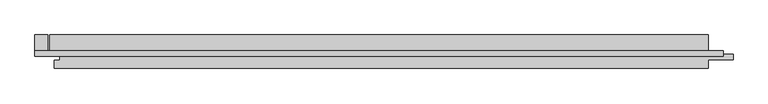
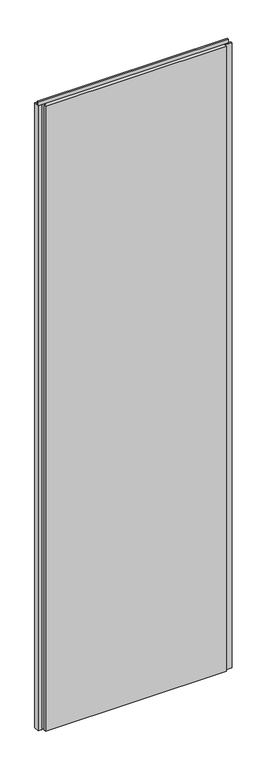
"""IFC4 building model written with IfcOpenShell, lengths in millimetres: plate geometry, Trimo_Qbiss Screen_Normal Panel-VERTICAL : HR - B."""

from ifc_helpers import new_model, si_unit, frame, origin, place, context, project, spatial, polyline, outline, extrude, source, transform, mapped, element, save


def plate_a53cdf28(model_context):
    return source(origin(), model_context, "Body", "SweptSolid", [
        extrude(outline(polyline([(-531.0, 97.0), (-531.0, 126.0), (-512.0, 126.0), (-512.0, 97.0), (-531.0, 97.0)])), frame((0.0, 0.0, 12.5), z_axis=(0.0, 0.0, 1.0), x_axis=(1.0, 0.0, 0.0)), (0.0, 0.0, 1.0), 3575.0),
        extrude(outline(polyline([(478.0, 97.0), (478.0, 102.6), (499.0, 102.6), (499.0, 97.0), (478.0, 97.0)])), frame((0.0, 0.0, 12.5), z_axis=(0.0, 0.0, 1.0), x_axis=(1.0, 0.0, 0.0)), (0.0, 0.0, 1.0), 3575.0),
        extrude(outline(polyline([(-531.0, 93.9), (-531.0, 102.6), (500.0, 102.6), (500.0, 93.9), (-531.0, 93.9)])), frame((0.0, 0.0, 3590.5), z_axis=(0.0, 0.0, 1.0), x_axis=(1.0, 0.0, 0.0)), (0.0, 0.0, 1.0), 19.0),
        extrude(outline(polyline([(477.0, 97.0), (514.5, 97.0), (514.5, 89.0), (477.0, 89.0), (477.0, 76.0), (-502.0, 76.0), (-502.0, 88.0), (-493.5, 88.0), (-493.5, 98.0), (-509.0, 98.0), (-509.0, 126.0), (477.0, 126.0), (477.0, 97.0)])), frame((0.0, 0.0, 12.5), z_axis=(0.0, 0.0, 1.0), x_axis=(1.0, 0.0, 0.0)), (0.0, 0.0, 1.0), 3575.0),
    ])


if __name__ == "__main__":
    model = new_model("IFC4")
    model_context = context("Model", 3, world=origin())
    ifc_project = project(units=[si_unit("LENGTHUNIT", "METRE", prefix="MILLI")], contexts=[model_context])
    site = spatial("IfcSite", under=ifc_project)
    building = spatial("IfcBuilding", under=site)
    placement = place(None, origin())
    plate_shape = plate_a53cdf28(model_context)
    element("IfcPlate", 1, ObjectType="Trimo_Qbiss Screen_Normal Panel-VERTICAL : HR - B", at=placement, inside=building, context=model_context, shape_type="MappedRepresentation", body=[
        mapped(plate_shape, transform((0.0, 0.0, 0.0), x_axis=(1.0, 0.0, 0.0), y_axis=(0.0, 1.0, 0.0), z_axis=(0.0, 0.0, 1.0))),
    ])
    save(model, "model.ifc")
